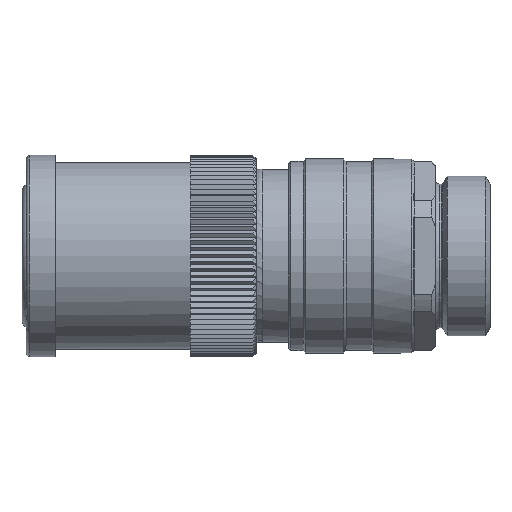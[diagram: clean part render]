
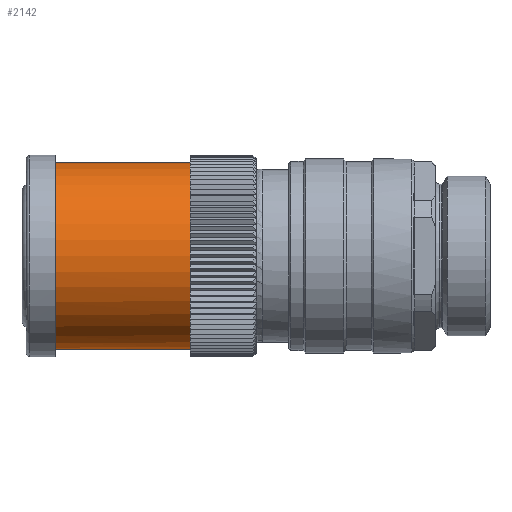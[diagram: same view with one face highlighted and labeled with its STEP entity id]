
A CAD part, top view. The second image highlights one B-rep face of the part: STEP entity #2142.
In plain terms, the highlighted cylindrical face has radius 13 mm (diameter 26 mm), a full revolution.
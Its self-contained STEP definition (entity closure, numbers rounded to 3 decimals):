
#319=B_SPLINE_CURVE_WITH_KNOTS('',3,(#11515,#11516,#11517,#11518,#11519,
#11520,#11521,#11522,#11523,#11524,#11525,#11526,#11527,#11528,#11529,#11530,
#11531,#11532,#11533,#11534,#11535,#11536,#11537,#11538,#11539,#11540,#11541,
#11542,#11543,#11544),.UNSPECIFIED.,.F.,.F.,(4,2,2,2,2,2,2,2,2,2,2,2,2,2,
4),(0.,0.063,0.125,0.188,0.25,0.313,0.375,0.5,0.625,0.688,0.75,0.813,
0.875,0.938,1.),.UNSPECIFIED.);
#1752=CYLINDRICAL_SURFACE('',#7130,13.);
#2142=ADVANCED_FACE('',(#2566,#2567),#1752,.T.);
#2566=FACE_BOUND('',#3043,.T.);
#2567=FACE_BOUND('',#3044,.T.);
#3043=EDGE_LOOP('',(#4712));
#3044=EDGE_LOOP('',(#4713,#4714));
#4712=ORIENTED_EDGE('',*,*,#5588,.T.);
#4713=ORIENTED_EDGE('',*,*,#6259,.F.);
#4714=ORIENTED_EDGE('',*,*,#6260,.T.);
#4992=VERTEX_POINT('',#9320);
#5393=VERTEX_POINT('',#11513);
#5394=VERTEX_POINT('',#11514);
#5588=EDGE_CURVE('',#4992,#4992,#6419,.T.);
#6259=EDGE_CURVE('',#5393,#5394,#6535,.T.);
#6260=EDGE_CURVE('',#5393,#5394,#319,.T.);
#6419=CIRCLE('',#6723,13.);
#6535=CIRCLE('',#7129,13.);
#6723=AXIS2_PLACEMENT_3D('',#9319,#7571,#7572);
#7129=AXIS2_PLACEMENT_3D('',#11512,#8757,#8758);
#7130=AXIS2_PLACEMENT_3D('',#11545,#8759,#8760);
#7571=DIRECTION('',(-1.,0.,0.));
#7572=DIRECTION('',(0.,0.,1.));
#8757=DIRECTION('',(-1.,0.,0.));
#8758=DIRECTION('',(0.,1.,0.));
#8759=DIRECTION('',(-1.,0.,0.));
#8760=DIRECTION('',(0.,1.,0.));
#9319=CARTESIAN_POINT('',(-5.35,0.,0.));
#9320=CARTESIAN_POINT('',(-5.35,0.,13.));
#11512=CARTESIAN_POINT('',(-24.15,0.,0.));
#11513=CARTESIAN_POINT('',(-24.15,-7.012,-10.947));
#11514=CARTESIAN_POINT('',(-24.15,7.012,-10.947));
#11515=CARTESIAN_POINT('',(-24.15,-7.012,-10.947));
#11516=CARTESIAN_POINT('',(-23.494,-7.688,-10.514));
#11517=CARTESIAN_POINT('',(-22.767,-8.252,-10.064));
#11518=CARTESIAN_POINT('',(-21.137,-9.184,-9.222));
#11519=CARTESIAN_POINT('',(-20.238,-9.545,-8.832));
#11520=CARTESIAN_POINT('',(-18.279,-9.986,-8.331));
#11521=CARTESIAN_POINT('',(-17.221,-10.054,-8.243));
#11522=CARTESIAN_POINT('',(-15.184,-9.852,-8.484));
#11523=CARTESIAN_POINT('',(-14.209,-9.587,-8.796));
#11524=CARTESIAN_POINT('',(-12.458,-8.833,-9.553));
#11525=CARTESIAN_POINT('',(-11.654,-8.335,-10.004));
#11526=CARTESIAN_POINT('',(-10.231,-7.154,-10.879));
#11527=CARTESIAN_POINT('',(-9.594,-6.459,-11.316));
#11528=CARTESIAN_POINT('',(-7.981,-4.087,-12.465));
#11529=CARTESIAN_POINT('',(-7.321,-2.107,-12.995));
#11530=CARTESIAN_POINT('',(-7.307,2.044,-13.005));
#11531=CARTESIAN_POINT('',(-7.965,4.05,-12.478));
#11532=CARTESIAN_POINT('',(-9.571,6.432,-11.332));
#11533=CARTESIAN_POINT('',(-10.208,7.132,-10.894));
#11534=CARTESIAN_POINT('',(-11.638,8.324,-10.013));
#11535=CARTESIAN_POINT('',(-12.425,8.816,-9.569));
#11536=CARTESIAN_POINT('',(-14.194,9.584,-8.801));
#11537=CARTESIAN_POINT('',(-15.164,9.847,-8.488));
#11538=CARTESIAN_POINT('',(-17.2,10.054,-8.243));
#11539=CARTESIAN_POINT('',(-18.258,9.988,-8.328));
#11540=CARTESIAN_POINT('',(-20.217,9.552,-8.825));
#11541=CARTESIAN_POINT('',(-21.117,9.193,-9.213));
#11542=CARTESIAN_POINT('',(-22.753,8.262,-10.056));
#11543=CARTESIAN_POINT('',(-23.493,7.688,-10.514));
#11544=CARTESIAN_POINT('',(-24.15,7.012,-10.947));
#11545=CARTESIAN_POINT('',(-11.9,0.,0.));
